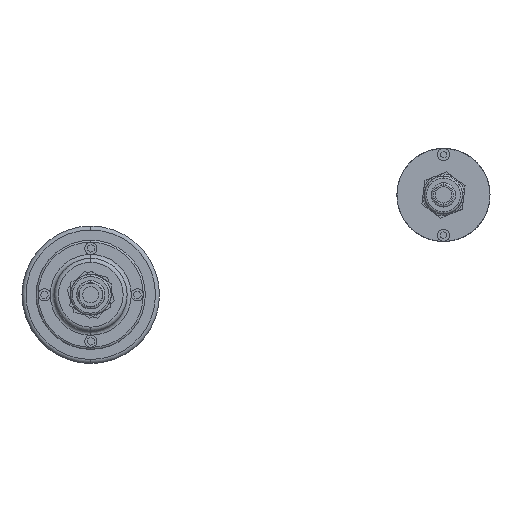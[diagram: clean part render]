
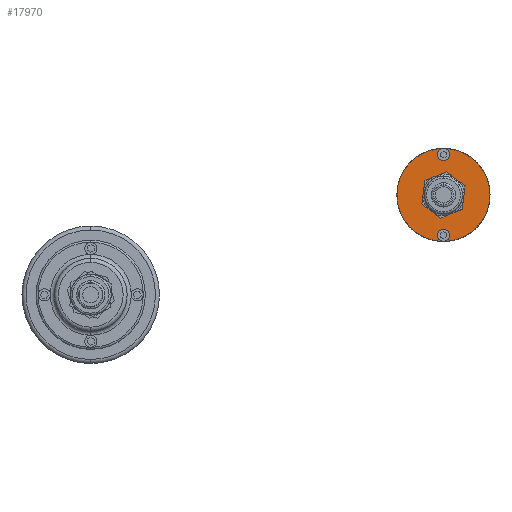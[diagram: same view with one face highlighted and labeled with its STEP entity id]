
A CAD part, front view. The second image highlights one B-rep face of the part: STEP entity #17970.
In plain terms, the highlighted planar face has unit normal (0, -1, 0).
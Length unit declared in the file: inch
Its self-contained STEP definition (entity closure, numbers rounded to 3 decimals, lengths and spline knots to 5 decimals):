
#3042 = EDGE_CURVE ( 'NONE', #3052, #3072, #23932, .T. ) ;
#3052 = VERTEX_POINT ( 'NONE', #23915 ) ;
#3072 = VERTEX_POINT ( 'NONE', #23979 ) ;
#3981 = EDGE_CURVE ( 'NONE', #4012, #3982, #26536, .T. ) ;
#3982 = VERTEX_POINT ( 'NONE', #26531 ) ;
#4012 = VERTEX_POINT ( 'NONE', #26642 ) ;
#4023 = EDGE_CURVE ( 'NONE', #4089, #4024, #26698, .T. ) ;
#4024 = VERTEX_POINT ( 'NONE', #26693 ) ;
#4089 = VERTEX_POINT ( 'NONE', #26899 ) ;
#4097 = VERTEX_POINT ( 'NONE', #26915 ) ;
#4144 = VERTEX_POINT ( 'NONE', #27070 ) ;
#4171 = EDGE_CURVE ( 'NONE', #4097, #4144, #27155, .T. ) ;
#15218 = DIRECTION ( 'NONE',  ( 0., 0., -1. ) ) ;
#15219 = DIRECTION ( 'NONE',  ( 0., -1., 0. ) ) ;
#15220 = CARTESIAN_POINT ( 'NONE',  ( 0., -0.2, 0. ) ) ;
#15221 = AXIS2_PLACEMENT_3D ( 'NONE', #15220, #15219, #15218 ) ;
#15222 = CIRCLE ( 'NONE', #15221, 1.15 ) ;
#15380 = DIRECTION ( 'NONE',  ( 0., 0., -1. ) ) ;
#15381 = DIRECTION ( 'NONE',  ( 0., -1., 0. ) ) ;
#15382 = CARTESIAN_POINT ( 'NONE',  ( 0., -0.2, -0.99749 ) ) ;
#15383 = AXIS2_PLACEMENT_3D ( 'NONE', #15382, #15381, #15380 ) ;
#15388 = CIRCLE ( 'NONE', #15383, 0.15 ) ;
#15398 = FACE_BOUND ( 'NONE', #17913, .T. ) ;
#15399 = FACE_BOUND ( 'NONE', #17909, .T. ) ;
#15400 = FACE_OUTER_BOUND ( 'NONE', #17966, .T. ) ;
#15401 = FACE_BOUND ( 'NONE', #17916, .T. ) ;
#15420 = DIRECTION ( 'NONE',  ( 0., 0., -1. ) ) ;
#15421 = DIRECTION ( 'NONE',  ( 0., -1., 0. ) ) ;
#15422 = AXIS2_PLACEMENT_3D ( 'NONE', #15428, #15421, #15420 ) ;
#15423 = CIRCLE ( 'NONE', #15422, 0.45 ) ;
#15424 = DIRECTION ( 'NONE',  ( 0., 0., -1. ) ) ;
#15425 = DIRECTION ( 'NONE',  ( 0., -1., 0. ) ) ;
#15426 = CARTESIAN_POINT ( 'NONE',  ( 0., -0.2, 0. ) ) ;
#15427 = AXIS2_PLACEMENT_3D ( 'NONE', #15426, #15425, #15424 ) ;
#15428 = CARTESIAN_POINT ( 'NONE',  ( 0., -0.2, 0. ) ) ;
#15429 = PLANE ( 'NONE',  #15427 ) ;
#15469 = DIRECTION ( 'NONE',  ( 0., 0., -1. ) ) ;
#15470 = DIRECTION ( 'NONE',  ( 0., -1., 0. ) ) ;
#15471 = CARTESIAN_POINT ( 'NONE',  ( 0., -0.2, 0.99749 ) ) ;
#15472 = AXIS2_PLACEMENT_3D ( 'NONE', #15471, #15470, #15469 ) ;
#15473 = CIRCLE ( 'NONE', #15472, 0.15 ) ;
#17905 = ORIENTED_EDGE ( 'NONE', *, *, #3042, .T. ) ;
#17907 = ORIENTED_EDGE ( 'NONE', *, *, #17914, .T. ) ;
#17909 = EDGE_LOOP ( 'NONE', ( #17971, #17912 ) ) ;
#17912 = ORIENTED_EDGE ( 'NONE', *, *, #4171, .F. ) ;
#17913 = EDGE_LOOP ( 'NONE', ( #17952, #17995 ) ) ;
#17914 = EDGE_CURVE ( 'NONE', #3072, #3052, #15222, .T. ) ;
#17916 = EDGE_LOOP ( 'NONE', ( #17973, #17977 ) ) ;
#17952 = ORIENTED_EDGE ( 'NONE', *, *, #17955, .F. ) ;
#17955 = EDGE_CURVE ( 'NONE', #3982, #4012, #15388, .T. ) ;
#17966 = EDGE_LOOP ( 'NONE', ( #17905, #17907 ) ) ;
#17970 = ADVANCED_FACE ( 'NONE', ( #15401, #15400, #15399, #15398 ), #15429, .T. ) ;
#17971 = ORIENTED_EDGE ( 'NONE', *, *, #17972, .F. ) ;
#17972 = EDGE_CURVE ( 'NONE', #4144, #4097, #15423, .T. ) ;
#17973 = ORIENTED_EDGE ( 'NONE', *, *, #17974, .F. ) ;
#17974 = EDGE_CURVE ( 'NONE', #4024, #4089, #15473, .T. ) ;
#17977 = ORIENTED_EDGE ( 'NONE', *, *, #4023, .F. ) ;
#17995 = ORIENTED_EDGE ( 'NONE', *, *, #3981, .F. ) ;
#23915 = CARTESIAN_POINT ( 'NONE',  ( 0., -0.2, -1.15 ) ) ;
#23928 = DIRECTION ( 'NONE',  ( 0., 0., -1. ) ) ;
#23929 = DIRECTION ( 'NONE',  ( 0., -1., 0. ) ) ;
#23930 = CARTESIAN_POINT ( 'NONE',  ( 0., -0.2, 0. ) ) ;
#23931 = AXIS2_PLACEMENT_3D ( 'NONE', #23930, #23929, #23928 ) ;
#23932 = CIRCLE ( 'NONE', #23931, 1.15 ) ;
#23979 = CARTESIAN_POINT ( 'NONE',  ( 0., -0.2, 1.15 ) ) ;
#26531 = CARTESIAN_POINT ( 'NONE',  ( 0., -0.2, -0.84749 ) ) ;
#26532 = DIRECTION ( 'NONE',  ( 0., 0., -1. ) ) ;
#26533 = DIRECTION ( 'NONE',  ( 0., -1., 0. ) ) ;
#26534 = CARTESIAN_POINT ( 'NONE',  ( 0., -0.2, -0.99749 ) ) ;
#26535 = AXIS2_PLACEMENT_3D ( 'NONE', #26534, #26533, #26532 ) ;
#26536 = CIRCLE ( 'NONE', #26535, 0.15 ) ;
#26642 = CARTESIAN_POINT ( 'NONE',  ( 0., -0.2, -1.14749 ) ) ;
#26693 = CARTESIAN_POINT ( 'NONE',  ( 0., -0.2, 1.14749 ) ) ;
#26694 = DIRECTION ( 'NONE',  ( 0., 0., -1. ) ) ;
#26695 = DIRECTION ( 'NONE',  ( 0., -1., 0. ) ) ;
#26696 = CARTESIAN_POINT ( 'NONE',  ( 0., -0.2, 0.99749 ) ) ;
#26697 = AXIS2_PLACEMENT_3D ( 'NONE', #26696, #26695, #26694 ) ;
#26698 = CIRCLE ( 'NONE', #26697, 0.15 ) ;
#26899 = CARTESIAN_POINT ( 'NONE',  ( 0., -0.2, 0.84749 ) ) ;
#26915 = CARTESIAN_POINT ( 'NONE',  ( 0., -0.2, -0.45 ) ) ;
#27070 = CARTESIAN_POINT ( 'NONE',  ( 0., -0.2, 0.45 ) ) ;
#27151 = DIRECTION ( 'NONE',  ( 0., 0., -1. ) ) ;
#27152 = DIRECTION ( 'NONE',  ( 0., -1., 0. ) ) ;
#27153 = CARTESIAN_POINT ( 'NONE',  ( 0., -0.2, 0. ) ) ;
#27154 = AXIS2_PLACEMENT_3D ( 'NONE', #27153, #27152, #27151 ) ;
#27155 = CIRCLE ( 'NONE', #27154, 0.45 ) ;
